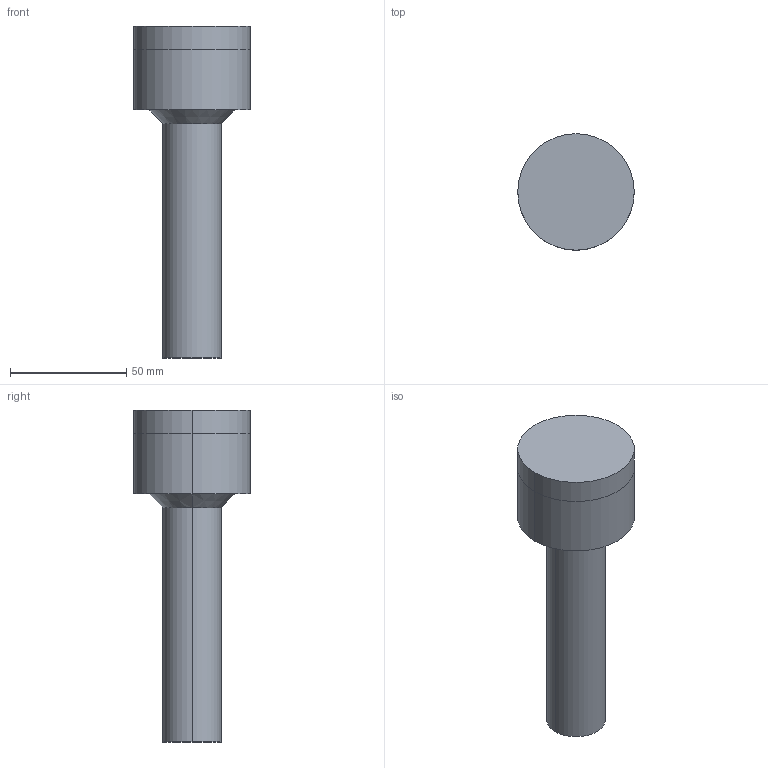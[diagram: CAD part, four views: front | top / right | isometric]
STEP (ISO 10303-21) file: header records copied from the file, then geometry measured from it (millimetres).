
FILE_DESCRIPTION (( 'STEP AP214' ), '1' );
FILE_NAME ('BruyRubio_B4_132,5.STEP', '2020-01-14T10:20:41', ( '' ), ( '' ), 'SwSTEP 2.0', 'SolidWorks 2017', '' );
FILE_SCHEMA (( 'AUTOMOTIVE_DESIGN' ));
Length unit declared in the file: millimetre
Products named in the file (3): B4 132,5_fe3dcd; Einbauraum_3f69ea; BruyRubio_B4_132,5
Assembly tree (2 placements, depth 2):
  BruyRubio_B4_132,5
    Einbauraum_3f69ea
    B4 132,5_fe3dcd
Bounding box: 50 x 50 x 142.5 mm (x, y, z)
Volume: 222408.3 mm3; surface area: 36830.9 mm2
Topology: 2 solids, 2 shells, 23 faces, 44 edges, 26 vertices
Faces by surface type: cylinder 8, cone 6, plane 5, torus 2, sphere 2
Entity records: 955 total; most frequent: DIRECTION 130, CARTESIAN_POINT 98, ORIENTED_EDGE 88, AXIS2_PLACEMENT_3D 58, EDGE_CURVE 44, CIRCLE 30, UNCERTAINTY_MEASURE_WITH_UNIT 30, MECHANICAL_DESIGN_GEOMETRIC_PRESENTATION_REPRESENTATION 27
